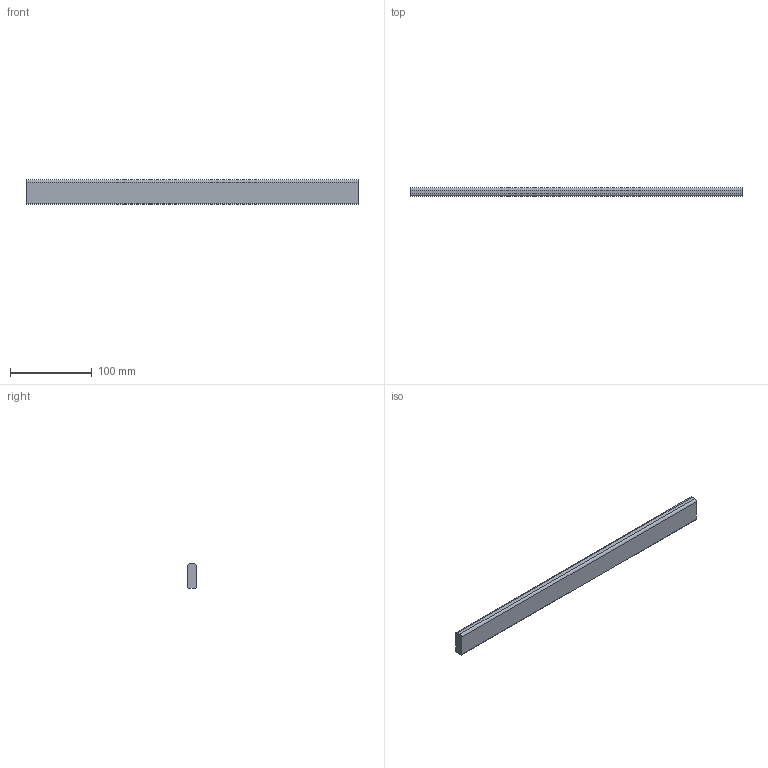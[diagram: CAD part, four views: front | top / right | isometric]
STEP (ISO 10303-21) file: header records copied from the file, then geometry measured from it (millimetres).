
FILE_DESCRIPTION (( 'STEP AP214' ), '1' );
FILE_NAME ('_Querreling_KAB-500_KS-19.step', '2010-08-26T14:58:35', ( 'grass' ), ( '' ), 'SwSTEP 2.0', 'SolidWorks 2009', '' );
FILE_SCHEMA (( 'AUTOMOTIVE_DESIGN' ));
Length unit declared in the file: millimetre
Products named in the file (1): _Querreling_KAB-500_KS-19
Bounding box: 406.5 x 10.5 x 30 mm (x, y, z)
Volume: 126302.8 mm3; surface area: 32152.1 mm2
Topology: 1 solids, 1 shells, 10 faces, 24 edges, 16 vertices
Faces by surface type: plane 6, cylinder 4
Entity records: 330 total; most frequent: DIRECTION 54, CARTESIAN_POINT 51, ORIENTED_EDGE 48, EDGE_CURVE 24, AXIS2_PLACEMENT_3D 19, LINE 16, VECTOR 16, VERTEX_POINT 16
